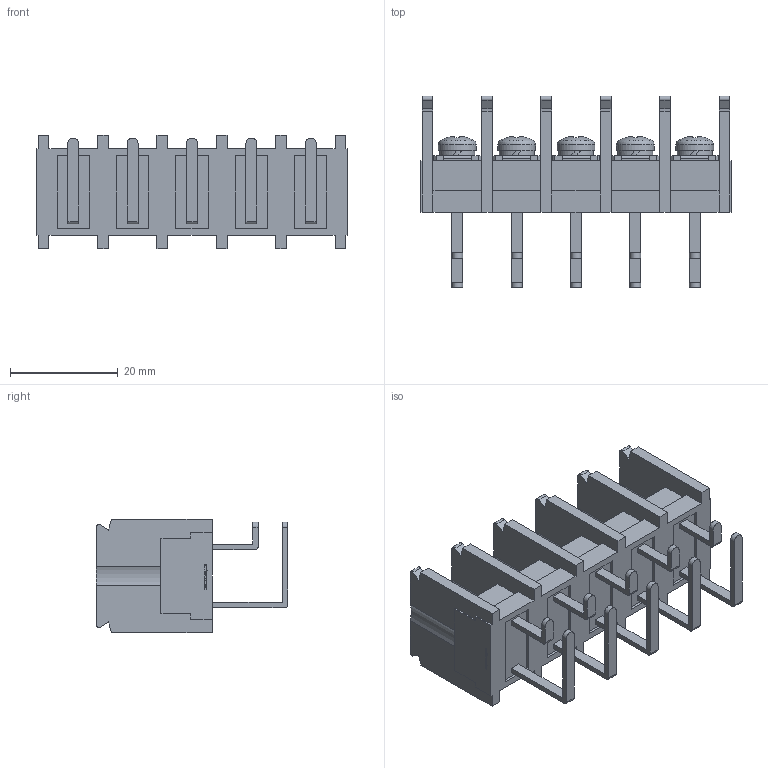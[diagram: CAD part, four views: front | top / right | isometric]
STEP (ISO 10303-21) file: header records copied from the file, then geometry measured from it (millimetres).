
FILE_DESCRIPTION(/* description */ ('Alibre Inc.'),/* implementation_level */ '2;1');
FILE_NAME(/* name */ 'export0',/* time_stamp */ '2015-12-02T12:51:13+09:00',/* author */ (''),/* organization */ (''),/* preprocessor_version */ 'ST-DEVELOPER v14',/* originating_system */ 'Alibre',/* authorisation */ '');
FILE_SCHEMA (('CONFIG_CONTROL_DESIGN'));
Length unit declared in the file: centimetre
Products named in the file (1): ID_1
Bounding box: 57.6 x 35.5 x 21 mm (x, y, z)
Volume: 10943.6 mm3; surface area: 12376.9 mm2
Topology: 1 solids, 17 shells, 945 faces, 2558 edges, 1702 vertices
Faces by surface type: plane 732, bspline 104, cylinder 74, cone 25, sphere 5, torus 5
Full cylindrical faces by diameter (mm): 4 x5, 6.5 x5, 7 x5
Entity records: 28441 total; most frequent: CARTESIAN_POINT 6175, ORIENTED_EDGE 5076, DIRECTION 3423, EDGE_CURVE 2538, VECTOR 1957, LINE 1957, VERTEX_POINT 1702, AXIS2_PLACEMENT_3D 1068
